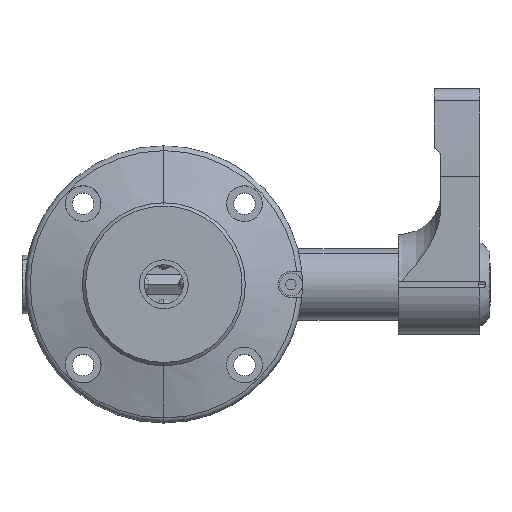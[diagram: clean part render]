
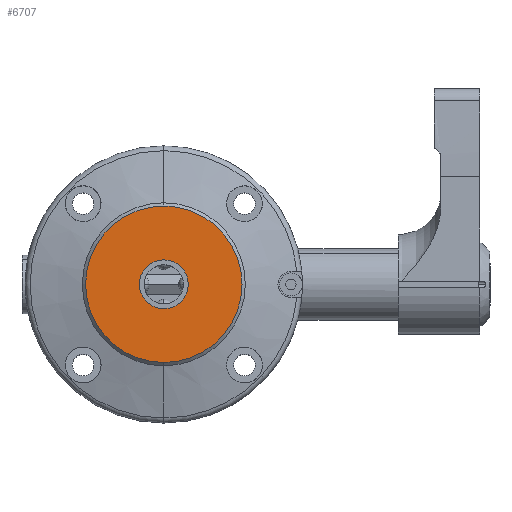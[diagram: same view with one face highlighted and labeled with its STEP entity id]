
A CAD part, top view. The second image highlights one B-rep face of the part: STEP entity #6707.
In plain terms, the highlighted planar face has unit normal (0, 0, 1) as drawn and (0, 0, -1) by its records, which use the part's own axes.
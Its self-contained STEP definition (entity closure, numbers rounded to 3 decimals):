
#422 = ORIENTED_EDGE ( 'NONE', *, *, #6187, .T. ) ;
#433 = CIRCLE ( 'NONE', #6159, 7.5 ) ;
#466 = CIRCLE ( 'NONE', #5220, 24. ) ;
#513 = EDGE_LOOP ( 'NONE', ( #1845, #2467 ) ) ;
#1063 = VERTEX_POINT ( 'NONE', #8536 ) ;
#1214 = DIRECTION ( 'NONE',  ( 0., -1., 0. ) ) ;
#1467 = ORIENTED_EDGE ( 'NONE', *, *, #5393, .T. ) ;
#1522 = CARTESIAN_POINT ( 'NONE',  ( 0., 0., -60. ) ) ;
#1845 = ORIENTED_EDGE ( 'NONE', *, *, #9182, .T. ) ;
#2043 = CIRCLE ( 'NONE', #9043, 24. ) ;
#2114 = DIRECTION ( 'NONE',  ( 0., -1., 0. ) ) ;
#2194 = DIRECTION ( 'NONE',  ( 0., 0., -1. ) ) ;
#2467 = ORIENTED_EDGE ( 'NONE', *, *, #7570, .T. ) ;
#2483 = AXIS2_PLACEMENT_3D ( 'NONE', #8061, #7313, #8966 ) ;
#2653 = CIRCLE ( 'NONE', #6474, 7.5 ) ;
#2842 = FACE_BOUND ( 'NONE', #513, .T. ) ;
#3391 = CARTESIAN_POINT ( 'NONE',  ( 0., -24., -60. ) ) ;
#3718 = CARTESIAN_POINT ( 'NONE',  ( 0., 0., -60. ) ) ;
#4320 = FACE_OUTER_BOUND ( 'NONE', #5872, .T. ) ;
#4332 = VERTEX_POINT ( 'NONE', #9814 ) ;
#4467 = PLANE ( 'NONE',  #2483 ) ;
#5029 = VERTEX_POINT ( 'NONE', #8984 ) ;
#5220 = AXIS2_PLACEMENT_3D ( 'NONE', #6836, #5286, #2114 ) ;
#5286 = DIRECTION ( 'NONE',  ( 0., 0., -1. ) ) ;
#5393 = EDGE_CURVE ( 'NONE', #5029, #8600, #2043, .T. ) ;
#5872 = EDGE_LOOP ( 'NONE', ( #1467, #422 ) ) ;
#6159 = AXIS2_PLACEMENT_3D ( 'NONE', #8087, #9481, #1214 ) ;
#6187 = EDGE_CURVE ( 'NONE', #8600, #5029, #466, .T. ) ;
#6474 = AXIS2_PLACEMENT_3D ( 'NONE', #1522, #6805, #7545 ) ;
#6707 = ADVANCED_FACE ( 'NONE', ( #2842, #4320 ), #4467, .T. ) ;
#6805 = DIRECTION ( 'NONE',  ( 0., 0., 1. ) ) ;
#6836 = CARTESIAN_POINT ( 'NONE',  ( 0., 0., -60. ) ) ;
#7313 = DIRECTION ( 'NONE',  ( 0., 0., -1. ) ) ;
#7545 = DIRECTION ( 'NONE',  ( 0., -1., 0. ) ) ;
#7570 = EDGE_CURVE ( 'NONE', #4332, #1063, #433, .T. ) ;
#8061 = CARTESIAN_POINT ( 'NONE',  ( 0., 0., -60. ) ) ;
#8087 = CARTESIAN_POINT ( 'NONE',  ( 0., 0., -60. ) ) ;
#8536 = CARTESIAN_POINT ( 'NONE',  ( 0., 7.5, -60. ) ) ;
#8600 = VERTEX_POINT ( 'NONE', #3391 ) ;
#8876 = DIRECTION ( 'NONE',  ( 0., -1., 0. ) ) ;
#8966 = DIRECTION ( 'NONE',  ( 0., -1., 0. ) ) ;
#8984 = CARTESIAN_POINT ( 'NONE',  ( 0., 24., -60. ) ) ;
#9043 = AXIS2_PLACEMENT_3D ( 'NONE', #3718, #2194, #8876 ) ;
#9182 = EDGE_CURVE ( 'NONE', #1063, #4332, #2653, .T. ) ;
#9481 = DIRECTION ( 'NONE',  ( 0., 0., 1. ) ) ;
#9814 = CARTESIAN_POINT ( 'NONE',  ( 0., -7.5, -60. ) ) ;
